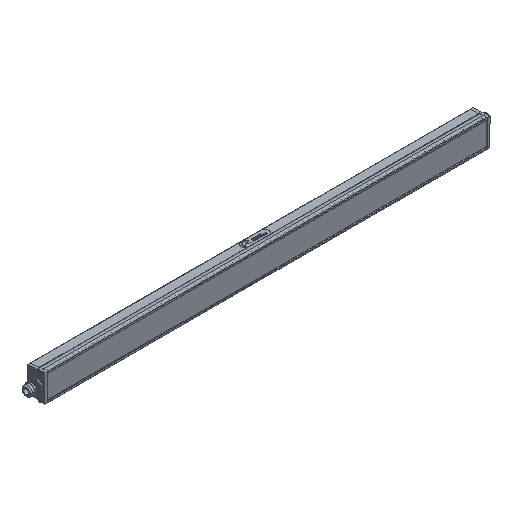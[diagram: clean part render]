
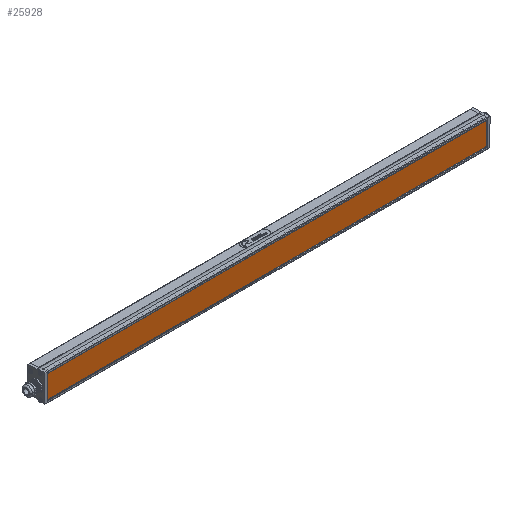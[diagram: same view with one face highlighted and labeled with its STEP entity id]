
A CAD part, isometric view. The second image highlights one B-rep face of the part: STEP entity #25928.
In plain terms, the highlighted planar face has unit normal (0, -1, 0) as drawn and (0, 1, 0) by its records, which use the part's own axes.
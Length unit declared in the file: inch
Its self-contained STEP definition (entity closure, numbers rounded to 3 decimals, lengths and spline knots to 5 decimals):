
#531 = LINE ( 'NONE', #17759, #7482 ) ;
#797 = CARTESIAN_POINT ( 'NONE',  ( 10.135, 0.03, -0.586 ) ) ;
#1120 = EDGE_LOOP ( 'NONE', ( #15241, #10262, #11905, #27512 ) ) ;
#2341 = DIRECTION ( 'NONE',  ( -1., 0., 0. ) ) ;
#2864 = EDGE_CURVE ( 'NONE', #19879, #4649, #19494, .T. ) ;
#2876 = CARTESIAN_POINT ( 'NONE',  ( -10.135, 0.03, 0.586 ) ) ;
#2923 = DIRECTION ( 'NONE',  ( 1., 0., 0. ) ) ;
#4436 = DIRECTION ( 'NONE',  ( 0., 0., 1. ) ) ;
#4649 = VERTEX_POINT ( 'NONE', #10362 ) ;
#4832 = EDGE_CURVE ( 'NONE', #11226, #19879, #21355, .T. ) ;
#7482 = VECTOR ( 'NONE', #2923, 39.37008 ) ;
#9439 = CARTESIAN_POINT ( 'NONE',  ( -10.135, 0.03, -0.586 ) ) ;
#10262 = ORIENTED_EDGE ( 'NONE', *, *, #17242, .T. ) ;
#10362 = CARTESIAN_POINT ( 'NONE',  ( -10.135, 0.03, -0.586 ) ) ;
#11118 = VECTOR ( 'NONE', #24044, 39.37008 ) ;
#11226 = VERTEX_POINT ( 'NONE', #23977 ) ;
#11905 = ORIENTED_EDGE ( 'NONE', *, *, #4832, .T. ) ;
#12883 = DIRECTION ( 'NONE',  ( 0., 0., 1. ) ) ;
#12988 = PLANE ( 'NONE',  #14205 ) ;
#14205 = AXIS2_PLACEMENT_3D ( 'NONE', #2876, #27938, #12883 ) ;
#15241 = ORIENTED_EDGE ( 'NONE', *, *, #15528, .T. ) ;
#15528 = EDGE_CURVE ( 'NONE', #4649, #23123, #31661, .T. ) ;
#17242 = EDGE_CURVE ( 'NONE', #23123, #11226, #531, .T. ) ;
#17759 = CARTESIAN_POINT ( 'NONE',  ( -10.135, 0.03, 0.586 ) ) ;
#19494 = LINE ( 'NONE', #27067, #24645 ) ;
#19879 = VERTEX_POINT ( 'NONE', #27109 ) ;
#21355 = LINE ( 'NONE', #797, #11118 ) ;
#23123 = VERTEX_POINT ( 'NONE', #29088 ) ;
#23977 = CARTESIAN_POINT ( 'NONE',  ( 10.135, 0.03, 0.586 ) ) ;
#24044 = DIRECTION ( 'NONE',  ( 0., 0., -1. ) ) ;
#24645 = VECTOR ( 'NONE', #2341, 39.37008 ) ;
#25928 = ADVANCED_FACE ( 'NONE', ( #27893 ), #12988, .T. ) ;
#27067 = CARTESIAN_POINT ( 'NONE',  ( -10.135, 0.03, -0.586 ) ) ;
#27109 = CARTESIAN_POINT ( 'NONE',  ( 10.135, 0.03, -0.586 ) ) ;
#27512 = ORIENTED_EDGE ( 'NONE', *, *, #2864, .T. ) ;
#27893 = FACE_OUTER_BOUND ( 'NONE', #1120, .T. ) ;
#27938 = DIRECTION ( 'NONE',  ( 0., 1., 0. ) ) ;
#29088 = CARTESIAN_POINT ( 'NONE',  ( -10.135, 0.03, 0.586 ) ) ;
#31661 = LINE ( 'NONE', #9439, #32457 ) ;
#32457 = VECTOR ( 'NONE', #4436, 39.37008 ) ;
